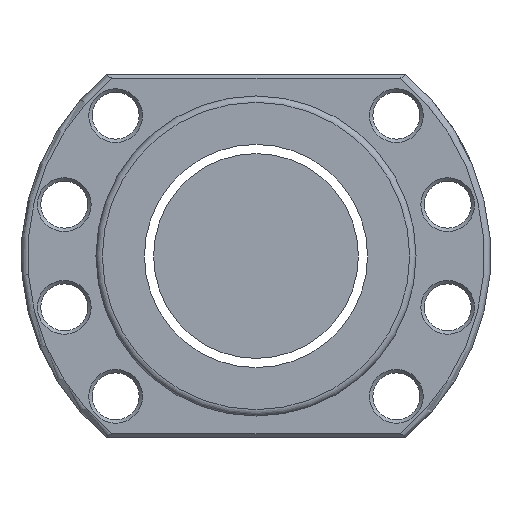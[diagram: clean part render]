
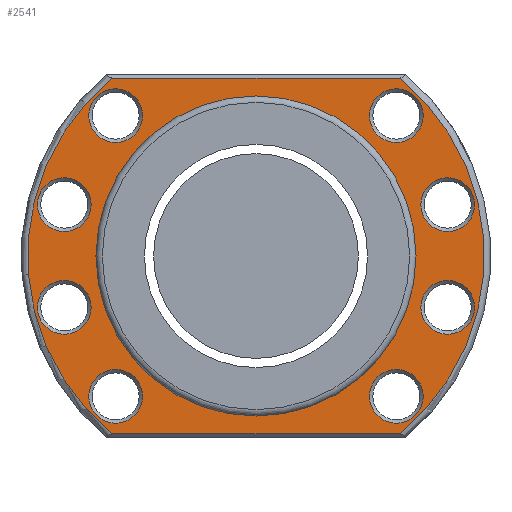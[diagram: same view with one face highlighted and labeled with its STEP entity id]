
A CAD part, left-side view. The second image highlights one B-rep face of the part: STEP entity #2541.
In plain terms, the highlighted planar face has unit normal (-1, 0, 0).
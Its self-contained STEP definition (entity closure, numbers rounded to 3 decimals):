
#11 = DIRECTION ( 'NONE',  ( 0., 1., 0. ) ) ;
#28 = FACE_BOUND ( 'NONE', #1815, .T. ) ;
#46 = FACE_BOUND ( 'NONE', #2630, .T. ) ;
#57 = EDGE_LOOP ( 'NONE', ( #453, #725, #548, #2985 ) ) ;
#88 = CARTESIAN_POINT ( 'NONE',  ( -87.5, 0., 0. ) ) ;
#92 = CARTESIAN_POINT ( 'NONE',  ( -87.5, 44.916, 18.335 ) ) ;
#126 = VERTEX_POINT ( 'NONE', #3289 ) ;
#140 = CARTESIAN_POINT ( 'NONE',  ( -87.5, -44.916, 18.335 ) ) ;
#160 = EDGE_LOOP ( 'NONE', ( #2462 ) ) ;
#166 = CIRCLE ( 'NONE', #1002, 6.3 ) ;
#203 = DIRECTION ( 'NONE',  ( 0., -1., 0. ) ) ;
#222 = AXIS2_PLACEMENT_3D ( 'NONE', #602, #3156, #1903 ) ;
#227 = CIRCLE ( 'NONE', #2161, 6.3 ) ;
#278 = AXIS2_PLACEMENT_3D ( 'NONE', #88, #889, #1948 ) ;
#296 = CARTESIAN_POINT ( 'NONE',  ( -87.5, 55., 0. ) ) ;
#312 = EDGE_CURVE ( 'NONE', #2474, #2474, #2269, .T. ) ;
#406 = CARTESIAN_POINT ( 'NONE',  ( -87.5, 32.88, -32.88 ) ) ;
#435 = DIRECTION ( 'NONE',  ( 0., 0., 1. ) ) ;
#446 = LINE ( 'NONE', #2581, #1941 ) ;
#453 = ORIENTED_EDGE ( 'NONE', *, *, #1091, .T. ) ;
#461 = CARTESIAN_POINT ( 'NONE',  ( -87.5, 32.88, -26.58 ) ) ;
#470 = CARTESIAN_POINT ( 'NONE',  ( -87.5, -33.517, -41.7 ) ) ;
#530 = DIRECTION ( 'NONE',  ( 0., 0., 1. ) ) ;
#548 = ORIENTED_EDGE ( 'NONE', *, *, #584, .T. ) ;
#550 = CIRCLE ( 'NONE', #995, 53.5 ) ;
#558 = AXIS2_PLACEMENT_3D ( 'NONE', #939, #1978, #435 ) ;
#584 = EDGE_CURVE ( 'NONE', #2784, #1919, #550, .T. ) ;
#602 = CARTESIAN_POINT ( 'NONE',  ( -87.5, -32.88, 32.88 ) ) ;
#616 = DIRECTION ( 'NONE',  ( 0., 0., 1. ) ) ;
#676 = DIRECTION ( 'NONE',  ( 1., 0., 0. ) ) ;
#679 = CARTESIAN_POINT ( 'NONE',  ( -87.5, -44.916, -5.735 ) ) ;
#704 = ORIENTED_EDGE ( 'NONE', *, *, #2333, .T. ) ;
#716 = DIRECTION ( 'NONE',  ( 0., 0., 1. ) ) ;
#725 = ORIENTED_EDGE ( 'NONE', *, *, #1296, .T. ) ;
#745 = VERTEX_POINT ( 'NONE', #2593 ) ;
#754 = ORIENTED_EDGE ( 'NONE', *, *, #3369, .T. ) ;
#810 = FACE_BOUND ( 'NONE', #1709, .T. ) ;
#829 = FACE_BOUND ( 'NONE', #160, .T. ) ;
#841 = DIRECTION ( 'NONE',  ( 0., 0., 1. ) ) ;
#867 = FACE_BOUND ( 'NONE', #1397, .T. ) ;
#873 = CARTESIAN_POINT ( 'NONE',  ( -87.5, 32.88, 39.18 ) ) ;
#889 = DIRECTION ( 'NONE',  ( 1., 0., 0. ) ) ;
#939 = CARTESIAN_POINT ( 'NONE',  ( -87.5, -44.916, -12.035 ) ) ;
#980 = DIRECTION ( 'NONE',  ( 1., 0., 0. ) ) ;
#995 = AXIS2_PLACEMENT_3D ( 'NONE', #2139, #1794, #1287 ) ;
#1002 = AXIS2_PLACEMENT_3D ( 'NONE', #3029, #676, #1722 ) ;
#1046 = EDGE_CURVE ( 'NONE', #1202, #1202, #2101, .T. ) ;
#1087 = CARTESIAN_POINT ( 'NONE',  ( -87.5, 0., 0. ) ) ;
#1091 = EDGE_CURVE ( 'NONE', #2179, #2442, #2552, .T. ) ;
#1093 = FACE_BOUND ( 'NONE', #3084, .T. ) ;
#1103 = CARTESIAN_POINT ( 'NONE',  ( -87.5, 44.916, 12.035 ) ) ;
#1111 = FACE_BOUND ( 'NONE', #1433, .T. ) ;
#1144 = CARTESIAN_POINT ( 'NONE',  ( -87.5, 33.517, -41.7 ) ) ;
#1154 = ORIENTED_EDGE ( 'NONE', *, *, #1046, .T. ) ;
#1170 = DIRECTION ( 'NONE',  ( 1., 0., 0. ) ) ;
#1202 = VERTEX_POINT ( 'NONE', #1725 ) ;
#1272 = AXIS2_PLACEMENT_3D ( 'NONE', #296, #2688, #2202 ) ;
#1287 = DIRECTION ( 'NONE',  ( 0., 0., 1. ) ) ;
#1296 = EDGE_CURVE ( 'NONE', #2442, #2784, #446, .T. ) ;
#1382 = AXIS2_PLACEMENT_3D ( 'NONE', #2655, #980, #716 ) ;
#1384 = DIRECTION ( 'NONE',  ( 0., 0., 1. ) ) ;
#1397 = EDGE_LOOP ( 'NONE', ( #2718 ) ) ;
#1407 = EDGE_CURVE ( 'NONE', #3000, #3000, #2982, .T. ) ;
#1433 = EDGE_LOOP ( 'NONE', ( #3358 ) ) ;
#1447 = ORIENTED_EDGE ( 'NONE', *, *, #1808, .T. ) ;
#1503 = AXIS2_PLACEMENT_3D ( 'NONE', #406, #1170, #616 ) ;
#1576 = DIRECTION ( 'NONE',  ( 1., 0., 0. ) ) ;
#1604 = EDGE_LOOP ( 'NONE', ( #704 ) ) ;
#1605 = DIRECTION ( 'NONE',  ( -1., 0., 0. ) ) ;
#1612 = FACE_BOUND ( 'NONE', #1604, .T. ) ;
#1683 = FACE_OUTER_BOUND ( 'NONE', #57, .T. ) ;
#1709 = EDGE_LOOP ( 'NONE', ( #2063 ) ) ;
#1722 = DIRECTION ( 'NONE',  ( 0., 0., 1. ) ) ;
#1725 = CARTESIAN_POINT ( 'NONE',  ( -87.5, -32.88, 39.18 ) ) ;
#1773 = AXIS2_PLACEMENT_3D ( 'NONE', #2876, #1576, #2633 ) ;
#1794 = DIRECTION ( 'NONE',  ( -1., 0., 0. ) ) ;
#1806 = VERTEX_POINT ( 'NONE', #461 ) ;
#1808 = EDGE_CURVE ( 'NONE', #126, #126, #2500, .T. ) ;
#1815 = EDGE_LOOP ( 'NONE', ( #3209 ) ) ;
#1827 = CIRCLE ( 'NONE', #1773, 6.3 ) ;
#1869 = LINE ( 'NONE', #2394, #2219 ) ;
#1871 = EDGE_CURVE ( 'NONE', #2781, #2781, #166, .T. ) ;
#1891 = FACE_BOUND ( 'NONE', #2213, .T. ) ;
#1897 = EDGE_CURVE ( 'NONE', #3051, #3051, #2104, .T. ) ;
#1903 = DIRECTION ( 'NONE',  ( 0., 0., 1. ) ) ;
#1919 = VERTEX_POINT ( 'NONE', #1963 ) ;
#1941 = VECTOR ( 'NONE', #203, 1000. ) ;
#1948 = DIRECTION ( 'NONE',  ( 0., 0., -1. ) ) ;
#1963 = CARTESIAN_POINT ( 'NONE',  ( -87.5, -33.517, 41.7 ) ) ;
#1978 = DIRECTION ( 'NONE',  ( 1., 0., 0. ) ) ;
#2063 = ORIENTED_EDGE ( 'NONE', *, *, #1897, .T. ) ;
#2101 = CIRCLE ( 'NONE', #222, 6.3 ) ;
#2104 = CIRCLE ( 'NONE', #558, 6.3 ) ;
#2139 = CARTESIAN_POINT ( 'NONE',  ( -87.5, 0., 0. ) ) ;
#2159 = DIRECTION ( 'NONE',  ( 1., 0., 0. ) ) ;
#2161 = AXIS2_PLACEMENT_3D ( 'NONE', #3179, #2741, #1384 ) ;
#2179 = VERTEX_POINT ( 'NONE', #2372 ) ;
#2202 = DIRECTION ( 'NONE',  ( 0., 0., 1. ) ) ;
#2213 = EDGE_LOOP ( 'NONE', ( #1154 ) ) ;
#2215 = AXIS2_PLACEMENT_3D ( 'NONE', #1087, #1605, #530 ) ;
#2219 = VECTOR ( 'NONE', #11, 1000. ) ;
#2269 = CIRCLE ( 'NONE', #2548, 6.3 ) ;
#2281 = VERTEX_POINT ( 'NONE', #3321 ) ;
#2333 = EDGE_CURVE ( 'NONE', #2281, #2281, #1827, .T. ) ;
#2359 = EDGE_CURVE ( 'NONE', #745, #745, #227, .T. ) ;
#2372 = CARTESIAN_POINT ( 'NONE',  ( -87.5, 33.517, 41.7 ) ) ;
#2380 = EDGE_CURVE ( 'NONE', #1919, #2179, #1869, .T. ) ;
#2394 = CARTESIAN_POINT ( 'NONE',  ( -87.5, 55., 41.7 ) ) ;
#2442 = VERTEX_POINT ( 'NONE', #1144 ) ;
#2462 = ORIENTED_EDGE ( 'NONE', *, *, #1871, .T. ) ;
#2474 = VERTEX_POINT ( 'NONE', #92 ) ;
#2500 = CIRCLE ( 'NONE', #278, 37.5 ) ;
#2541 = ADVANCED_FACE ( 'NONE', ( #1612, #810, #829, #1891, #28, #1111, #867, #46, #1093, #1683 ), #2922, .T. ) ;
#2548 = AXIS2_PLACEMENT_3D ( 'NONE', #1103, #2159, #841 ) ;
#2552 = CIRCLE ( 'NONE', #2215, 53.5 ) ;
#2581 = CARTESIAN_POINT ( 'NONE',  ( -87.5, 55., -41.7 ) ) ;
#2593 = CARTESIAN_POINT ( 'NONE',  ( -87.5, 44.916, -5.735 ) ) ;
#2630 = EDGE_LOOP ( 'NONE', ( #754 ) ) ;
#2633 = DIRECTION ( 'NONE',  ( 0., 0., 1. ) ) ;
#2655 = CARTESIAN_POINT ( 'NONE',  ( -87.5, 32.88, 32.88 ) ) ;
#2688 = DIRECTION ( 'NONE',  ( -1., 0., 0. ) ) ;
#2718 = ORIENTED_EDGE ( 'NONE', *, *, #2359, .T. ) ;
#2724 = CIRCLE ( 'NONE', #1503, 6.3 ) ;
#2741 = DIRECTION ( 'NONE',  ( 1., 0., 0. ) ) ;
#2781 = VERTEX_POINT ( 'NONE', #140 ) ;
#2784 = VERTEX_POINT ( 'NONE', #470 ) ;
#2876 = CARTESIAN_POINT ( 'NONE',  ( -87.5, -32.88, -32.88 ) ) ;
#2922 = PLANE ( 'NONE',  #1272 ) ;
#2982 = CIRCLE ( 'NONE', #1382, 6.3 ) ;
#2985 = ORIENTED_EDGE ( 'NONE', *, *, #2380, .T. ) ;
#3000 = VERTEX_POINT ( 'NONE', #873 ) ;
#3029 = CARTESIAN_POINT ( 'NONE',  ( -87.5, -44.916, 12.035 ) ) ;
#3051 = VERTEX_POINT ( 'NONE', #679 ) ;
#3084 = EDGE_LOOP ( 'NONE', ( #1447 ) ) ;
#3156 = DIRECTION ( 'NONE',  ( 1., 0., 0. ) ) ;
#3179 = CARTESIAN_POINT ( 'NONE',  ( -87.5, 44.916, -12.035 ) ) ;
#3209 = ORIENTED_EDGE ( 'NONE', *, *, #1407, .T. ) ;
#3289 = CARTESIAN_POINT ( 'NONE',  ( -87.5, 0., -37.5 ) ) ;
#3321 = CARTESIAN_POINT ( 'NONE',  ( -87.5, -32.88, -26.58 ) ) ;
#3358 = ORIENTED_EDGE ( 'NONE', *, *, #312, .T. ) ;
#3369 = EDGE_CURVE ( 'NONE', #1806, #1806, #2724, .T. ) ;
